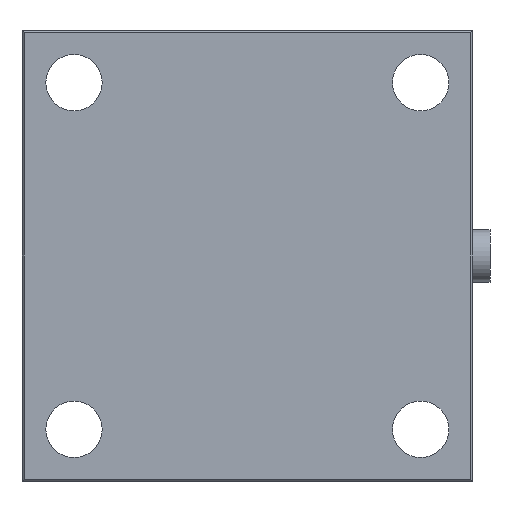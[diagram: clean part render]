
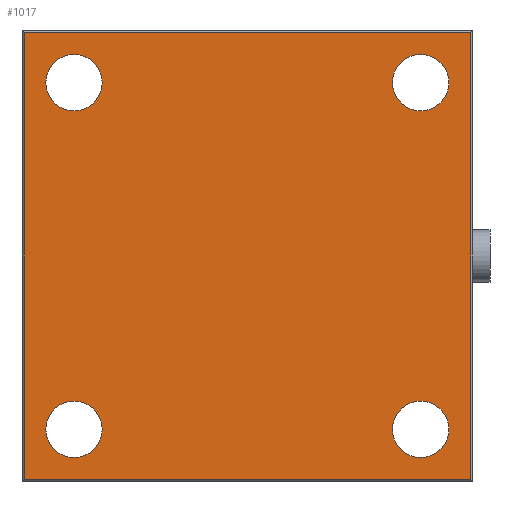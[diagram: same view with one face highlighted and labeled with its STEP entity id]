
A CAD part, front view. The second image highlights one B-rep face of the part: STEP entity #1017.
In plain terms, the highlighted planar face has unit normal (0, -1, 0).
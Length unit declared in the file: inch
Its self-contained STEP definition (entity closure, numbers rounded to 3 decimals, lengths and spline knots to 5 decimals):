
#1 = LINE ( 'NONE', #618, #9 ) ;
#9 = VECTOR ( 'NONE', #619, 39.37008 ) ;
#25 = CIRCLE ( 'NONE', #1734, 0.20312 ) ;
#32 = LINE ( 'NONE', #661, #33 ) ;
#33 = VECTOR ( 'NONE', #662, 39.37008 ) ;
#43 = CIRCLE ( 'NONE', #1763, 0.20312 ) ;
#78 = CIRCLE ( 'NONE', #1782, 0.20312 ) ;
#112 = FACE_BOUND ( 'NONE', #1981, .T. ) ;
#118 = CIRCLE ( 'NONE', #1795, 0.20312 ) ;
#123 = CIRCLE ( 'NONE', #1800, 0.20312 ) ;
#136 = FACE_OUTER_BOUND ( 'NONE', #1989, .T. ) ;
#139 = FACE_BOUND ( 'NONE', #1963, .T. ) ;
#140 = FACE_BOUND ( 'NONE', #1999, .T. ) ;
#141 = FACE_BOUND ( 'NONE', #2010, .T. ) ;
#162 = CIRCLE ( 'NONE', #1784, 0.20312 ) ;
#341 = DIRECTION ( 'NONE',  ( 0., 0., 1. ) ) ;
#342 = CARTESIAN_POINT ( 'NONE',  ( 2.875, 0., -2.875 ) ) ;
#361 = DIRECTION ( 'NONE',  ( 0., 1., 0. ) ) ;
#370 = CARTESIAN_POINT ( 'NONE',  ( 0.375, 0., -2.875 ) ) ;
#371 = DIRECTION ( 'NONE',  ( 0., 1., 0. ) ) ;
#372 = DIRECTION ( 'NONE',  ( 0., 0., 1. ) ) ;
#388 = VERTEX_POINT ( 'NONE', #500 ) ;
#410 = VERTEX_POINT ( 'NONE', #525 ) ;
#417 = VERTEX_POINT ( 'NONE', #521 ) ;
#418 = VERTEX_POINT ( 'NONE', #511 ) ;
#428 = VERTEX_POINT ( 'NONE', #508 ) ;
#429 = VERTEX_POINT ( 'NONE', #515 ) ;
#434 = VERTEX_POINT ( 'NONE', #520 ) ;
#435 = VERTEX_POINT ( 'NONE', #513 ) ;
#472 = VERTEX_POINT ( 'NONE', #579 ) ;
#476 = VERTEX_POINT ( 'NONE', #573 ) ;
#478 = VERTEX_POINT ( 'NONE', #559 ) ;
#491 = VERTEX_POINT ( 'NONE', #551 ) ;
#500 = CARTESIAN_POINT ( 'NONE',  ( 0.375, 0., -2.67188 ) ) ;
#508 = CARTESIAN_POINT ( 'NONE',  ( 2.875, 0., -2.67188 ) ) ;
#511 = CARTESIAN_POINT ( 'NONE',  ( 0.375, 0., -0.17188 ) ) ;
#513 = CARTESIAN_POINT ( 'NONE',  ( 0.375, 0., -0.57812 ) ) ;
#515 = CARTESIAN_POINT ( 'NONE',  ( 2.875, 0., -3.07813 ) ) ;
#520 = CARTESIAN_POINT ( 'NONE',  ( 2.875, 0., -0.17188 ) ) ;
#521 = CARTESIAN_POINT ( 'NONE',  ( 2.875, 0., -0.57812 ) ) ;
#525 = CARTESIAN_POINT ( 'NONE',  ( 0.375, 0., -3.07813 ) ) ;
#549 = CARTESIAN_POINT ( 'NONE',  ( 3.235, 0., 0. ) ) ;
#551 = CARTESIAN_POINT ( 'NONE',  ( 3.235, 0., -3.235 ) ) ;
#558 = DIRECTION ( 'NONE',  ( 0., 0., 1. ) ) ;
#559 = CARTESIAN_POINT ( 'NONE',  ( 0.015, 0., -0.015 ) ) ;
#565 = CARTESIAN_POINT ( 'NONE',  ( 0.375, 0., -2.875 ) ) ;
#568 = DIRECTION ( 'NONE',  ( 0., 1., 0. ) ) ;
#573 = CARTESIAN_POINT ( 'NONE',  ( 3.235, 0., -0.015 ) ) ;
#579 = CARTESIAN_POINT ( 'NONE',  ( 0.015, 0., -3.235 ) ) ;
#597 = DIRECTION ( 'NONE',  ( 0., 0., 1. ) ) ;
#616 = CARTESIAN_POINT ( 'NONE',  ( 0., 0., -0.015 ) ) ;
#618 = CARTESIAN_POINT ( 'NONE',  ( 0.015, 0., -3.25 ) ) ;
#619 = DIRECTION ( 'NONE',  ( 0., 0., -1. ) ) ;
#621 = DIRECTION ( 'NONE',  ( -1., 0., 0. ) ) ;
#657 = CARTESIAN_POINT ( 'NONE',  ( 2.875, 0., -0.375 ) ) ;
#661 = CARTESIAN_POINT ( 'NONE',  ( 3.25, 0., -3.235 ) ) ;
#662 = DIRECTION ( 'NONE',  ( 1., 0., 0. ) ) ;
#665 = DIRECTION ( 'NONE',  ( 0., 1., 0. ) ) ;
#678 = DIRECTION ( 'NONE',  ( 0., 0., 1. ) ) ;
#691 = CARTESIAN_POINT ( 'NONE',  ( 2.875, 0., -2.875 ) ) ;
#692 = DIRECTION ( 'NONE',  ( 0., 1., 0. ) ) ;
#694 = DIRECTION ( 'NONE',  ( 0., 0., 1. ) ) ;
#697 = CARTESIAN_POINT ( 'NONE',  ( 0.375, 0., -0.375 ) ) ;
#700 = DIRECTION ( 'NONE',  ( 0., 0., 1. ) ) ;
#704 = DIRECTION ( 'NONE',  ( 0., 1., 0. ) ) ;
#814 = CARTESIAN_POINT ( 'NONE',  ( 2.875, 0., -0.375 ) ) ;
#832 = DIRECTION ( 'NONE',  ( 0., 1., 0. ) ) ;
#835 = DIRECTION ( 'NONE',  ( 0., 0., 1. ) ) ;
#864 = EDGE_CURVE ( 'NONE', #491, #476, #1525, .T. ) ;
#865 = EDGE_CURVE ( 'NONE', #388, #410, #1526, .T. ) ;
#872 = EDGE_CURVE ( 'NONE', #476, #478, #1524, .T. ) ;
#875 = EDGE_CURVE ( 'NONE', #478, #472, #1, .T. ) ;
#893 = EDGE_CURVE ( 'NONE', #434, #417, #25, .T. ) ;
#896 = EDGE_CURVE ( 'NONE', #472, #491, #32, .T. ) ;
#904 = EDGE_CURVE ( 'NONE', #428, #429, #43, .T. ) ;
#915 = EDGE_CURVE ( 'NONE', #418, #435, #1119, .T. ) ;
#962 = EDGE_CURVE ( 'NONE', #417, #434, #78, .T. ) ;
#992 = EDGE_CURVE ( 'NONE', #429, #428, #118, .T. ) ;
#1002 = EDGE_CURVE ( 'NONE', #410, #388, #123, .T. ) ;
#1008 = EDGE_CURVE ( 'NONE', #435, #418, #162, .T. ) ;
#1017 = ADVANCED_FACE ( 'NONE', ( #136, #139, #112, #140, #141 ), #1260, .T. ) ;
#1119 = CIRCLE ( 'NONE', #1756, 0.20312 ) ;
#1232 = DIRECTION ( 'NONE',  ( 0., -1., 0. ) ) ;
#1235 = DIRECTION ( 'NONE',  ( 0., 0., 1. ) ) ;
#1254 = CARTESIAN_POINT ( 'NONE',  ( 0., 0., -3.25 ) ) ;
#1256 = DIRECTION ( 'NONE',  ( 0., 0., -1. ) ) ;
#1259 = DIRECTION ( 'NONE',  ( 0., 1., 0. ) ) ;
#1260 = PLANE ( 'NONE',  #1802 ) ;
#1272 = CARTESIAN_POINT ( 'NONE',  ( 0.375, 0., -0.375 ) ) ;
#1524 = LINE ( 'NONE', #616, #1530 ) ;
#1525 = LINE ( 'NONE', #549, #1528 ) ;
#1526 = CIRCLE ( 'NONE', #1730, 0.20312 ) ;
#1528 = VECTOR ( 'NONE', #558, 39.37008 ) ;
#1530 = VECTOR ( 'NONE', #621, 39.37008 ) ;
#1684 = ORIENTED_EDGE ( 'NONE', *, *, #962, .T. ) ;
#1693 = ORIENTED_EDGE ( 'NONE', *, *, #915, .T. ) ;
#1700 = ORIENTED_EDGE ( 'NONE', *, *, #1008, .T. ) ;
#1703 = ORIENTED_EDGE ( 'NONE', *, *, #992, .T. ) ;
#1717 = ORIENTED_EDGE ( 'NONE', *, *, #893, .T. ) ;
#1721 = ORIENTED_EDGE ( 'NONE', *, *, #904, .T. ) ;
#1730 = AXIS2_PLACEMENT_3D ( 'NONE', #565, #568, #597 ) ;
#1734 = AXIS2_PLACEMENT_3D ( 'NONE', #657, #665, #678 ) ;
#1756 = AXIS2_PLACEMENT_3D ( 'NONE', #697, #704, #694 ) ;
#1763 = AXIS2_PLACEMENT_3D ( 'NONE', #691, #692, #700 ) ;
#1782 = AXIS2_PLACEMENT_3D ( 'NONE', #814, #832, #835 ) ;
#1784 = AXIS2_PLACEMENT_3D ( 'NONE', #1272, #1259, #1235 ) ;
#1795 = AXIS2_PLACEMENT_3D ( 'NONE', #342, #361, #341 ) ;
#1800 = AXIS2_PLACEMENT_3D ( 'NONE', #370, #371, #372 ) ;
#1802 = AXIS2_PLACEMENT_3D ( 'NONE', #1254, #1232, #1256 ) ;
#1895 = ORIENTED_EDGE ( 'NONE', *, *, #865, .T. ) ;
#1904 = ORIENTED_EDGE ( 'NONE', *, *, #896, .T. ) ;
#1905 = ORIENTED_EDGE ( 'NONE', *, *, #872, .T. ) ;
#1912 = ORIENTED_EDGE ( 'NONE', *, *, #875, .T. ) ;
#1918 = ORIENTED_EDGE ( 'NONE', *, *, #1002, .T. ) ;
#1934 = ORIENTED_EDGE ( 'NONE', *, *, #864, .T. ) ;
#1963 = EDGE_LOOP ( 'NONE', ( #1895, #1918 ) ) ;
#1981 = EDGE_LOOP ( 'NONE', ( #1721, #1703 ) ) ;
#1989 = EDGE_LOOP ( 'NONE', ( #1905, #1912, #1904, #1934 ) ) ;
#1999 = EDGE_LOOP ( 'NONE', ( #1717, #1684 ) ) ;
#2010 = EDGE_LOOP ( 'NONE', ( #1693, #1700 ) ) ;
